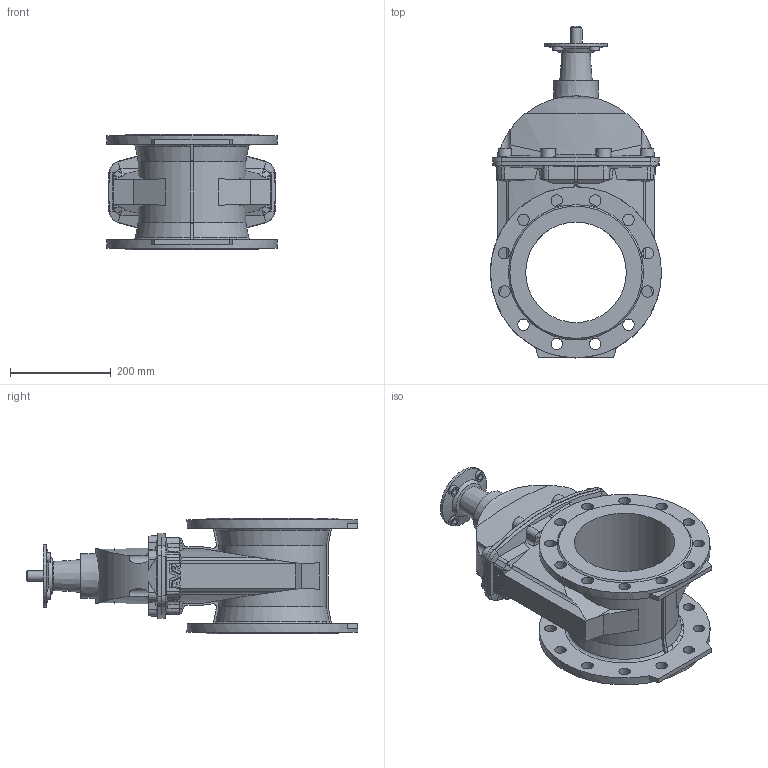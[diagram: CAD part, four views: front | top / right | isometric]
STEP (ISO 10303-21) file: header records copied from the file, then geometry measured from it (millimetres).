
FILE_DESCRIPTION (( 'STEP AP203' ), '1' );
FILE_NAME ('O_15_42_DN200_X1XXX099_AA0.step', '2017-03-10T08:44:16', ( 'Windows User' ), ( 'AVK' ), 'SwSTEP 2.0', 'SolidWorks 2012', '' );
FILE_SCHEMA (( 'CONFIG_CONTROL_DESIGN' ));
Length unit declared in the file: inch
Products named in the file (1): O_15_42_DN200_X1XXX099_AA0
Bounding box: 340 x 660 x 230 mm (x, y, z)
Volume: 12084180.5 mm3; surface area: 855733.8 mm2
Topology: 1 solids, 1 shells, 372 faces, 1061 edges, 692 vertices
Faces by surface type: plane 167, cylinder 103, cone 86, sphere 10, bspline 4, torus 2
Full cylindrical faces by diameter (mm): 12 x4, 20 x5, 23 x24, 125 x1, 200 x1, 340 x2
Entity records: 13702 total; most frequent: CARTESIAN_POINT 4626, ORIENTED_EDGE 1932, DIRECTION 1718, EDGE_CURVE 966, VERTEX_POINT 656, AXIS2_PLACEMENT_3D 620, EDGE_LOOP 490, VECTOR 478
